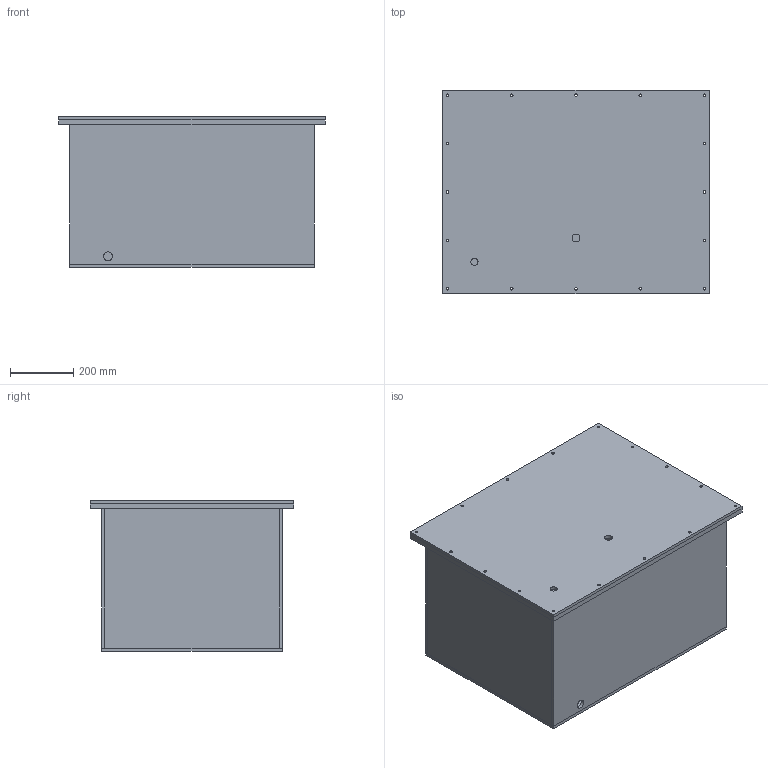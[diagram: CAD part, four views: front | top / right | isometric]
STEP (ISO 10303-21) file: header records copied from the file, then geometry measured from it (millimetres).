
FILE_DESCRIPTION (( 'STEP AP214' ), '1' );
FILE_NAME ('vytlacna_nadrz_sestava.STEP', '2019-08-05T08:19:21', ( '' ), ( '' ), 'SwSTEP 2.0', 'SolidWorks 2016', '' );
FILE_SCHEMA (( 'AUTOMOTIVE_DESIGN' ));
Length unit declared in the file: millimetre
Products named in the file (7): vytlacna_nadrz_bocnice; vytlacna_nadrz_horni_cast; vytlacna_nadrz_celo; vytlacna_nadrz_dno; vytlacna_nadrz_viko; vytlacna_nadrz_sestava; vytlacna_nadrz_bocnice_zavit
Assembly tree (7 placements, depth 2):
  vytlacna_nadrz_sestava
    vytlacna_nadrz_dno
    vytlacna_nadrz_bocnice
    vytlacna_nadrz_celo  x2
    vytlacna_nadrz_horni_cast
    vytlacna_nadrz_viko
    vytlacna_nadrz_bocnice_zavit
Bounding box: 840 x 640 x 475 mm (x, y, z)
Volume: 23222351.5 mm3; surface area: 4760399.5 mm2
Topology: 7 solids, 7 shells, 116 faces, 306 edges, 204 vertices
Faces by surface type: cylinder 70, plane 46
Entity records: 3980 total; most frequent: DIRECTION 674, CARTESIAN_POINT 610, ORIENTED_EDGE 588, EDGE_CURVE 294, AXIS2_PLACEMENT_3D 260, VERTEX_POINT 196, EDGE_LOOP 182, LINE 154
